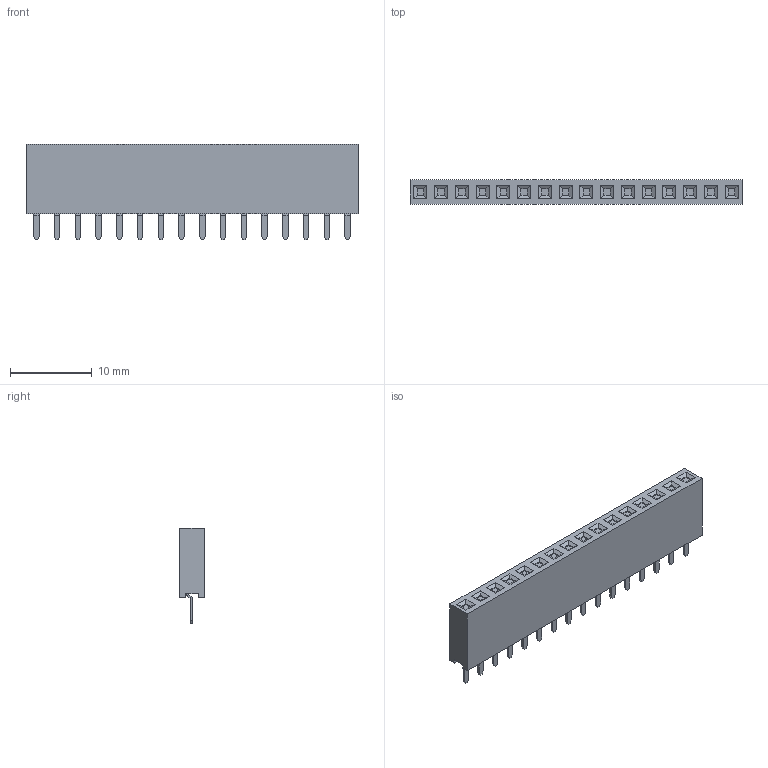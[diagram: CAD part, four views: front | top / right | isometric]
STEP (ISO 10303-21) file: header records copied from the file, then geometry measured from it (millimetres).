
FILE_DESCRIPTION (( 'STEP AP214' ), '1' );
FILE_NAME ('2045-1X16G00SA.STEP', '2017-09-04T16:42:34', ( '' ), ( '' ), 'SwSTEP 2.0', 'SolidWorks 2015', '' );
FILE_SCHEMA (( 'AUTOMOTIVE_DESIGN' ));
Length unit declared in the file: millimetre
Products named in the file (20): 2045-Pin-D; 2045-1X16G00SA; 2045-1X16sujiao
Assembly tree (17 placements, depth 2):
  2045-Pin-D
  2045-Pin-D
  2045-Pin-D
  2045-1X16G00SA
    2045-1X16sujiao
    2045-Pin-D  x16
  2045-Pin-D
Bounding box: 40.64 x 3 x 11.7 mm (x, y, z)
Volume: 1009.4 mm3; surface area: 1175.6 mm2
Topology: 81 solids, 81 shells, 762 faces, 1688 edges, 1104 vertices
Faces by surface type: plane 698, cylinder 64
Entity records: 5585 total; most frequent: CARTESIAN_POINT 905, DIRECTION 862, ORIENTED_EDGE 856, EDGE_CURVE 428, VECTOR 420, LINE 420, VERTEX_POINT 264, AXIS2_PLACEMENT_3D 221
